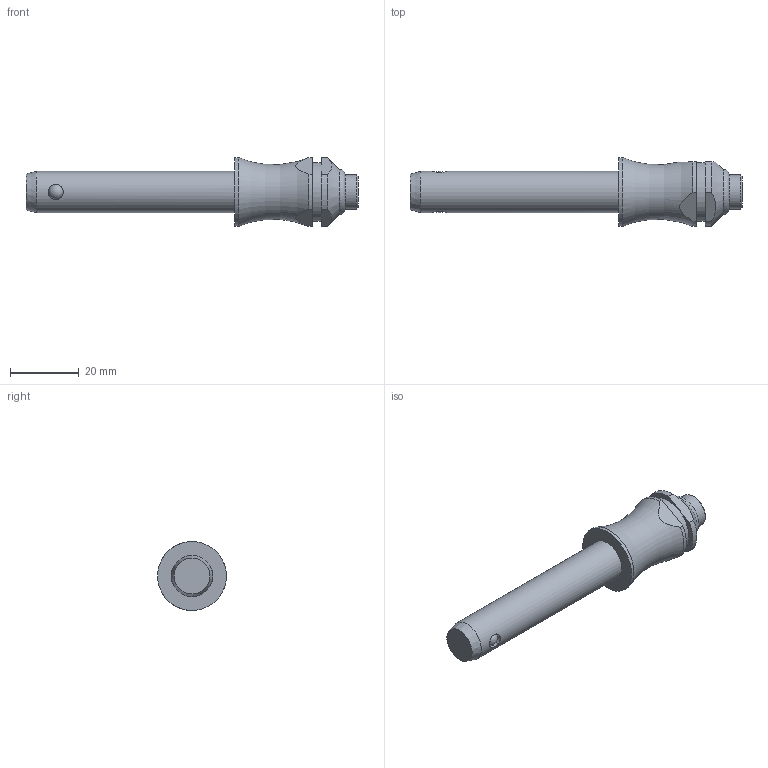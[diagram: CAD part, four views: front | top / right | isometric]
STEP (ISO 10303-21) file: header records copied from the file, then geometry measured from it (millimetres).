
FILE_DESCRIPTION( ( 'STEP AP203' ), '1' );
FILE_NAME( 'C:/Temp/Ganter_Step_05_03_2020/data/3_1/gn113_3/Stainless Steel-Ball lock pin GN 113.3-12-50 (activated).stp', '2020-03-12T08:18:45', ( 'License CC BY-ND 4.0' ), ( 'CADENAS' ), ' ', 'PARTsolutions', ' ' );
FILE_SCHEMA( ( 'CONFIG_CONTROL_DESIGN' ) );
Length unit declared in the file: millimetre
Products named in the file (1): _Stainless Steel-Ball lock pin GN 113.3-12-50 (activated)
Bounding box: 96.35 x 20 x 20 mm (x, y, z)
Volume: 14458.9 mm3; surface area: 4801.4 mm2
Topology: 1 solids, 1 shells, 30 faces, 72 edges, 45 vertices
Faces by surface type: cylinder 12, plane 11, cone 3, torus 2, sphere 2
Full cylindrical faces by diameter (mm): 4.4 x2, 10 x1, 12 x1, 17 x1, 20 x1
Entity records: 1010 total; most frequent: CARTESIAN_POINT 360, DIRECTION 130, ORIENTED_EDGE 102, AXIS2_PLACEMENT_3D 56, EDGE_CURVE 51, EDGE_LOOP 46, VERTEX_POINT 40, FACE_OUTER_BOUND 38
